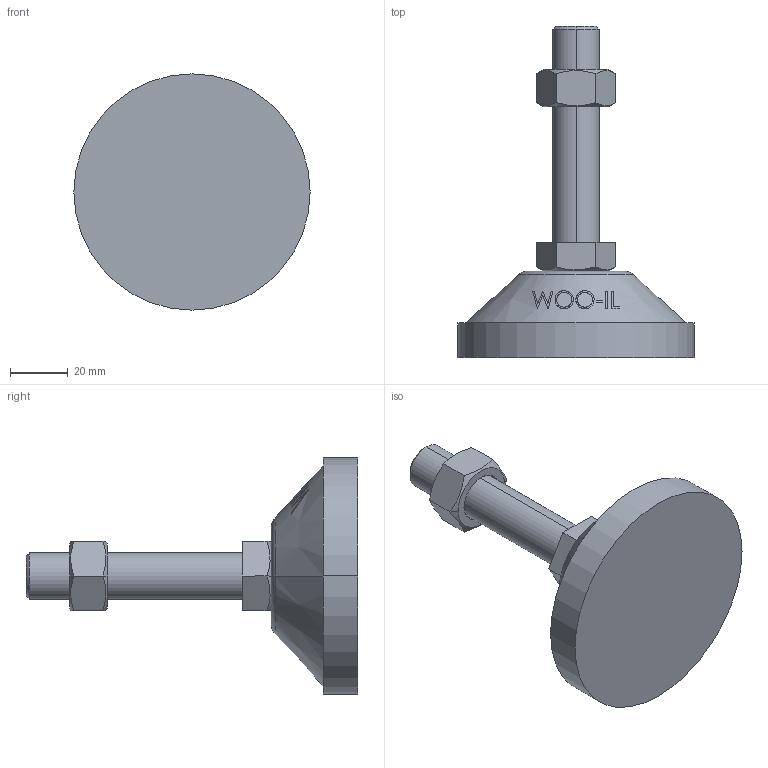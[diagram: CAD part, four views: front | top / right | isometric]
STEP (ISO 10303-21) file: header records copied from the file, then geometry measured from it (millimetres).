
FILE_DESCRIPTION (( 'STEP AP214' ), '1' );
FILE_NAME ('RL82-M16-75.step', '2021-01-06T08:18:22', ( '' ), ( '' ), 'SwSTEP 2.0', 'SolidWorks 2019', '' );
FILE_SCHEMA (( 'AUTOMOTIVE_DESIGN' ));
Length unit declared in the file: millimetre
Products named in the file (1): RL82-M16-75
Bounding box: 82 x 115 x 82 mm (x, y, z)
Volume: 134670.8 mm3; surface area: 22643.1 mm2
Topology: 3 solids, 3 shells, 93 faces, 217 edges, 140 vertices
Faces by surface type: plane 47, cone 22, bspline 16, cylinder 6, torus 2
Entity records: 4223 total; most frequent: CARTESIAN_POINT 2191, ORIENTED_EDGE 434, DIRECTION 349, EDGE_CURVE 217, VERTEX_POINT 140, AXIS2_PLACEMENT_3D 134, EDGE_LOOP 105, FACE_OUTER_BOUND 93
